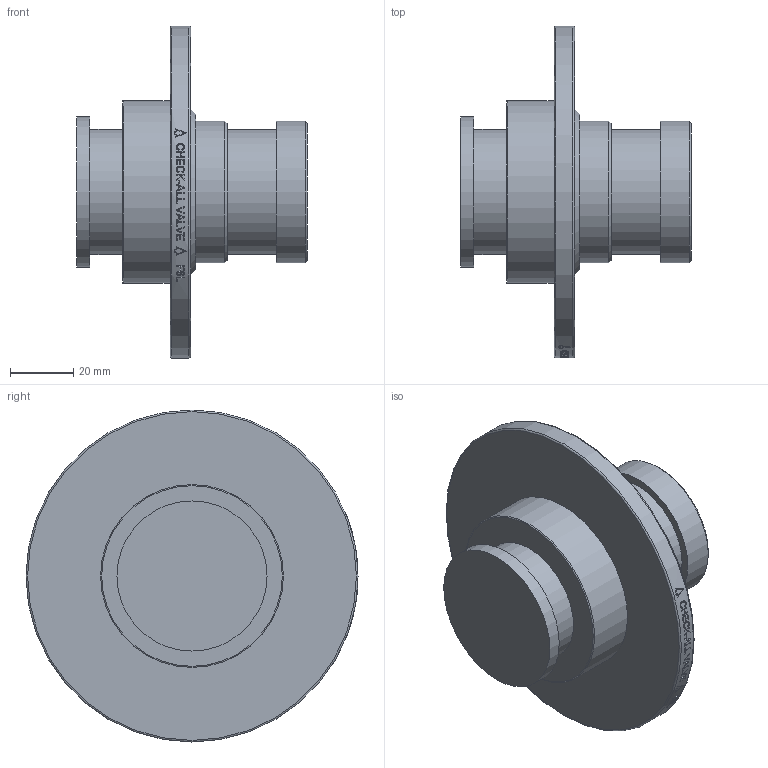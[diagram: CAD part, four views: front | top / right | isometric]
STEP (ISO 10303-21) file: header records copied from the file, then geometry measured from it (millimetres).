
FILE_DESCRIPTION( ( 'Unknown' ), '1' );
FILE_NAME( 'Y:/ENGR/3D Solid Edge Models/F6/F6 STEP/F6L.stp', 'Unknown', ( 'Unknown' ), ( 'Unknown' ), 'PSStep 14.0', 'Unknown', ' ' );
FILE_SCHEMA( ( 'AUTOMOTIVE_DESIGN { 1 0 10303 214 1 1 1 1 }' ) );
Length unit declared in the file: millimetre
Products named in the file (1): 1
Bounding box: 72.87 x 104.78 x 104.78 mm (x, y, z)
Volume: 168035.1 mm3; surface area: 30579.5 mm2
Topology: 1 solids, 1 shells, 208 faces, 520 edges, 345 vertices
Faces by surface type: plane 126, bspline 45, cylinder 31, cone 3, torus 3
Full cylindrical faces by diameter (mm): 39.497 x2, 44.577 x2, 47.371 x1, 57.683 x1, 104.775 x1
Entity records: 9271 total; most frequent: CARTESIAN_POINT 3741, ORIENTED_EDGE 1012, EDGE_CURVE 506, B_SPLINE_CURVE_WITH_KNOTS 485, DIRECTION 370, VERTEX_POINT 345, EDGE_LOOP 253, FACE_OUTER_BOUND 219
